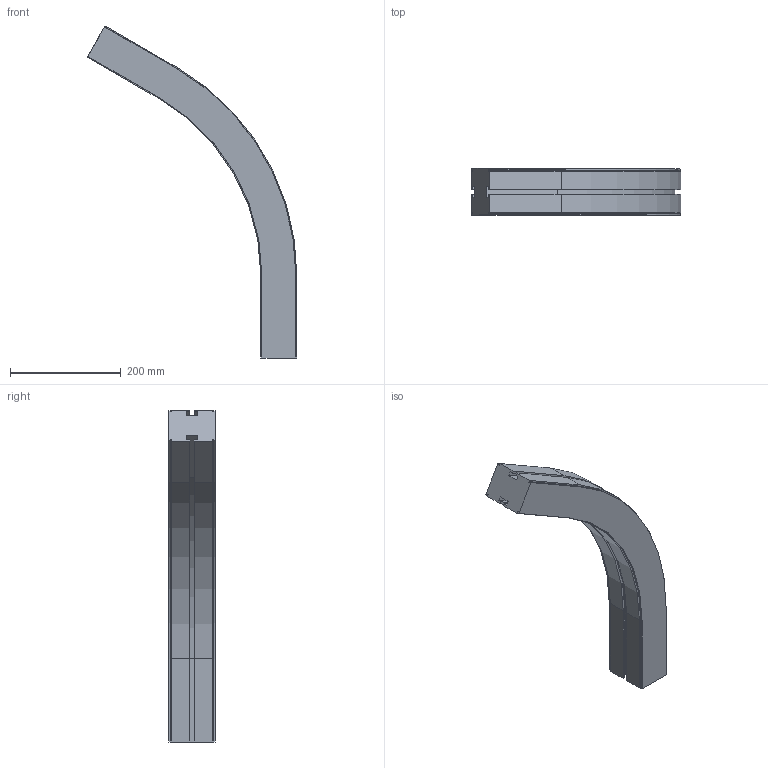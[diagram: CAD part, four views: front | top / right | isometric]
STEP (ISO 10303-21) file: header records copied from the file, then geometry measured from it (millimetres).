
FILE_DESCRIPTION (( 'STEP AP214' ), '1' );
FILE_NAME ('CS SL Horizontaalbocht.65 60° R400.STEP', '2017-02-08T07:35:25', ( '' ), ( '' ), 'SwSTEP 2.0', 'SolidWorks 2016', '' );
FILE_SCHEMA (( 'AUTOMOTIVE_DESIGN' ));
Length unit declared in the file: millimetre
Products named in the file (1): CS SL Horizontaalbocht.65 60° R400
Bounding box: 378.65 x 84 x 599.56 mm (x, y, z)
Volume: 3633667.5 mm3; surface area: 300507.5 mm2
Topology: 1 solids, 1 shells, 98 faces, 272 edges, 176 vertices
Faces by surface type: plane 72, cylinder 18, cone 8
Entity records: 3126 total; most frequent: CARTESIAN_POINT 547, ORIENTED_EDGE 544, DIRECTION 514, EDGE_CURVE 272, VECTOR 228, LINE 228, VERTEX_POINT 176, AXIS2_PLACEMENT_3D 143
